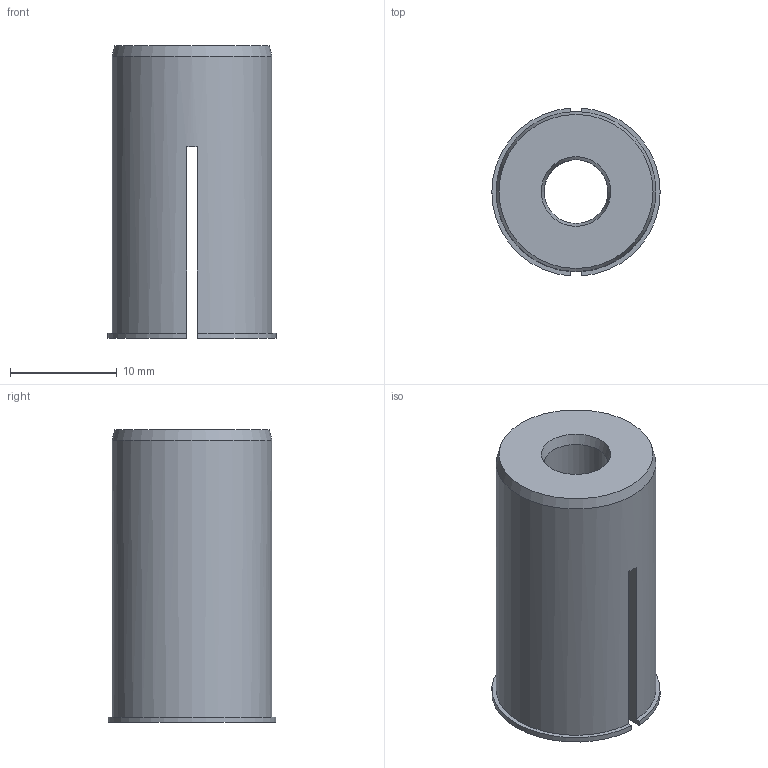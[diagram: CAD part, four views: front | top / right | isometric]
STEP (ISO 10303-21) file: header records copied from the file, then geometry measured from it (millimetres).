
FILE_DESCRIPTION(/* description */ ('STEP AP203'),/* implementation_level */ '2;1');
FILE_NAME(/* name */ 'P_MZ_Z_1255',/* time_stamp */ '2023-02-06T11:40:17+01:00',/* author */ ('License CC BY-ND 4.0'),/* organization */ ('CADENAS'),/* preprocessor_version */ 'ST-DEVELOPER v18.102',/* originating_system */ 'PARTsolutions',/* authorisation */ ' ');
FILE_SCHEMA (('CONFIG_CONTROL_DESIGN'));
Length unit declared in the file: millimetre
Products named in the file (1): P_MZ_Z_1255
Bounding box: 15.8 x 15.77 x 27.5 mm (x, y, z)
Volume: 3917.9 mm3; surface area: 2384.8 mm2
Topology: 1 solids, 1 shells, 19 faces, 52 edges, 34 vertices
Faces by surface type: plane 11, cylinder 4, cone 4
Full cylindrical faces by diameter (mm): 6 x1, 15 x1
Entity records: 608 total; most frequent: CARTESIAN_POINT 110, DIRECTION 100, ORIENTED_EDGE 92, EDGE_CURVE 46, AXIS2_PLACEMENT_3D 38, VERTEX_POINT 32, LINE 24, VECTOR 24
